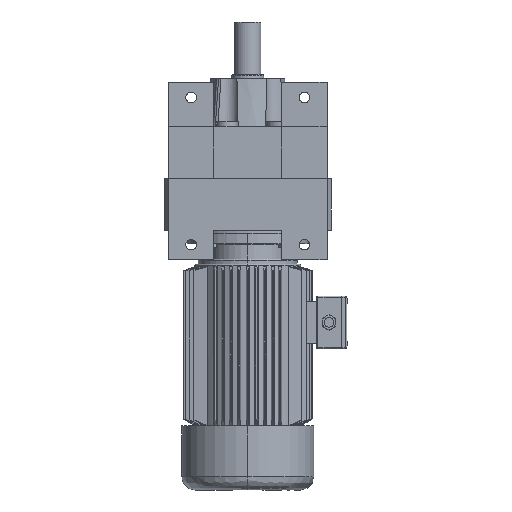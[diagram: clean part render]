
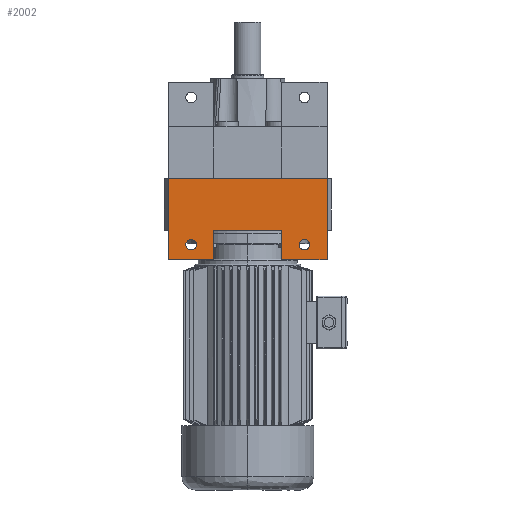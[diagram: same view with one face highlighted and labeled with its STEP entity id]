
A CAD part, front view. The second image highlights one B-rep face of the part: STEP entity #2002.
In plain terms, the highlighted planar face has unit normal (0, -1, 0).
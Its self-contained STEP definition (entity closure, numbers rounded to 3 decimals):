
#5 = EDGE_LOOP ( 'NONE', ( #9484, #21338 ) ) ;
#201 = AXIS2_PLACEMENT_3D ( 'NONE', #32561, #11098, #7064 ) ;
#1338 = VECTOR ( 'NONE', #13522, 1000. ) ;
#1797 = CARTESIAN_POINT ( 'NONE',  ( 88.4, -130., 68.667 ) ) ;
#2002 = ADVANCED_FACE ( 'NONE', ( #10989, #34947, #15466 ), #15970, .F. ) ;
#2065 = DIRECTION ( 'NONE',  ( 0., 0., 1. ) ) ;
#2277 = LINE ( 'NONE', #18982, #36793 ) ;
#2292 = CARTESIAN_POINT ( 'NONE',  ( 45., -130., -39. ) ) ;
#2510 = CARTESIAN_POINT ( 'NONE',  ( 88.4, -130., -39. ) ) ;
#3218 = VECTOR ( 'NONE', #19073, 1000. ) ;
#3390 = EDGE_CURVE ( 'NONE', #23847, #5272, #9970, .T. ) ;
#3499 = DIRECTION ( 'NONE',  ( 0., 0., -1. ) ) ;
#4339 = VERTEX_POINT ( 'NONE', #11947 ) ;
#4402 = CARTESIAN_POINT ( 'NONE',  ( 45., -130., 68.667 ) ) ;
#4434 = CARTESIAN_POINT ( 'NONE',  ( 105., -130., 68.667 ) ) ;
#4603 = VECTOR ( 'NONE', #6306, 1000. ) ;
#5272 = VERTEX_POINT ( 'NONE', #33374 ) ;
#5426 = CARTESIAN_POINT ( 'NONE',  ( -105., -130., -39. ) ) ;
#5792 = DIRECTION ( 'NONE',  ( 0., -1., 0. ) ) ;
#6306 = DIRECTION ( 'NONE',  ( 1., 0., 0. ) ) ;
#7064 = DIRECTION ( 'NONE',  ( 0., 0., 1. ) ) ;
#7510 = VERTEX_POINT ( 'NONE', #5426 ) ;
#7906 = CARTESIAN_POINT ( 'NONE',  ( 105., -130., -39. ) ) ;
#8514 = ORIENTED_EDGE ( 'NONE', *, *, #22014, .F. ) ;
#8896 = ORIENTED_EDGE ( 'NONE', *, *, #42219, .F. ) ;
#9030 = EDGE_CURVE ( 'NONE', #30284, #40990, #14510, .T. ) ;
#9484 = ORIENTED_EDGE ( 'NONE', *, *, #32710, .F. ) ;
#9528 = ORIENTED_EDGE ( 'NONE', *, *, #41993, .F. ) ;
#9892 = CARTESIAN_POINT ( 'NONE',  ( 75., -130., -39. ) ) ;
#9964 = DIRECTION ( 'NONE',  ( 0., -1., 0. ) ) ;
#9970 = CIRCLE ( 'NONE', #34165, 7. ) ;
#10239 = DIRECTION ( 'NONE',  ( -1., 0., 0. ) ) ;
#10989 = FACE_OUTER_BOUND ( 'NONE', #39577, .T. ) ;
#11098 = DIRECTION ( 'NONE',  ( 0., -1., 0. ) ) ;
#11139 = EDGE_CURVE ( 'NONE', #15037, #33782, #21113, .T. ) ;
#11312 = CIRCLE ( 'NONE', #11379, 7. ) ;
#11379 = AXIS2_PLACEMENT_3D ( 'NONE', #39212, #31738, #18058 ) ;
#11620 = VECTOR ( 'NONE', #44514, 1000. ) ;
#11917 = DIRECTION ( 'NONE',  ( 0., 1., 0. ) ) ;
#11947 = CARTESIAN_POINT ( 'NONE',  ( -105., -130., 68.667 ) ) ;
#12087 = ORIENTED_EDGE ( 'NONE', *, *, #43785, .T. ) ;
#12762 = EDGE_CURVE ( 'NONE', #33782, #4339, #29535, .T. ) ;
#13070 = CIRCLE ( 'NONE', #201, 7. ) ;
#13522 = DIRECTION ( 'NONE',  ( -1., 0., 0. ) ) ;
#14510 = LINE ( 'NONE', #24995, #37339 ) ;
#15037 = VERTEX_POINT ( 'NONE', #7906 ) ;
#15466 = FACE_BOUND ( 'NONE', #19793, .T. ) ;
#15821 = LINE ( 'NONE', #9892, #4603 ) ;
#15970 = PLANE ( 'NONE',  #42891 ) ;
#17819 = ORIENTED_EDGE ( 'NONE', *, *, #43098, .F. ) ;
#18058 = DIRECTION ( 'NONE',  ( 0., 0., 1. ) ) ;
#18982 = CARTESIAN_POINT ( 'NONE',  ( -105., -130., 196. ) ) ;
#19073 = DIRECTION ( 'NONE',  ( 0., 0., 1. ) ) ;
#19793 = EDGE_LOOP ( 'NONE', ( #8514, #29519 ) ) ;
#19897 = DIRECTION ( 'NONE',  ( -1., 0., 0. ) ) ;
#21113 = LINE ( 'NONE', #37530, #11620 ) ;
#21338 = ORIENTED_EDGE ( 'NONE', *, *, #3390, .F. ) ;
#22014 = EDGE_CURVE ( 'NONE', #28653, #24133, #42665, .T. ) ;
#22512 = LINE ( 'NONE', #2510, #1338 ) ;
#23253 = EDGE_CURVE ( 'NONE', #4339, #7510, #2277, .T. ) ;
#23847 = VERTEX_POINT ( 'NONE', #36962 ) ;
#24133 = VERTEX_POINT ( 'NONE', #35672 ) ;
#24571 = CARTESIAN_POINT ( 'NONE',  ( -75., -130., -19. ) ) ;
#24995 = CARTESIAN_POINT ( 'NONE',  ( 48.87, -130., 0. ) ) ;
#25745 = ORIENTED_EDGE ( 'NONE', *, *, #9030, .F. ) ;
#26017 = LINE ( 'NONE', #4402, #3218 ) ;
#26619 = LINE ( 'NONE', #27967, #34441 ) ;
#27967 = CARTESIAN_POINT ( 'NONE',  ( -45., -130., 68.667 ) ) ;
#28653 = VERTEX_POINT ( 'NONE', #44804 ) ;
#29519 = ORIENTED_EDGE ( 'NONE', *, *, #29943, .F. ) ;
#29535 = LINE ( 'NONE', #37925, #34013 ) ;
#29943 = EDGE_CURVE ( 'NONE', #24133, #28653, #11312, .T. ) ;
#30184 = CARTESIAN_POINT ( 'NONE',  ( -45., -130., 0. ) ) ;
#30284 = VERTEX_POINT ( 'NONE', #30604 ) ;
#30604 = CARTESIAN_POINT ( 'NONE',  ( 45., -130., 0. ) ) ;
#30824 = CARTESIAN_POINT ( 'NONE',  ( 75., -130., -19. ) ) ;
#31581 = DIRECTION ( 'NONE',  ( 0., 0., 1. ) ) ;
#31738 = DIRECTION ( 'NONE',  ( 0., -1., 0. ) ) ;
#31843 = CARTESIAN_POINT ( 'NONE',  ( -45., -130., -39. ) ) ;
#32505 = VERTEX_POINT ( 'NONE', #2292 ) ;
#32561 = CARTESIAN_POINT ( 'NONE',  ( 75., -130., -19. ) ) ;
#32704 = ORIENTED_EDGE ( 'NONE', *, *, #11139, .T. ) ;
#32710 = EDGE_CURVE ( 'NONE', #5272, #23847, #13070, .T. ) ;
#33327 = ORIENTED_EDGE ( 'NONE', *, *, #23253, .T. ) ;
#33374 = CARTESIAN_POINT ( 'NONE',  ( 75., -130., -12. ) ) ;
#33420 = DIRECTION ( 'NONE',  ( 0., 0., -1. ) ) ;
#33782 = VERTEX_POINT ( 'NONE', #4434 ) ;
#34013 = VECTOR ( 'NONE', #19897, 1000. ) ;
#34165 = AXIS2_PLACEMENT_3D ( 'NONE', #30824, #5792, #2065 ) ;
#34441 = VECTOR ( 'NONE', #3499, 1000. ) ;
#34947 = FACE_BOUND ( 'NONE', #5, .T. ) ;
#35672 = CARTESIAN_POINT ( 'NONE',  ( -75., -130., -26. ) ) ;
#36793 = VECTOR ( 'NONE', #33420, 1000. ) ;
#36962 = CARTESIAN_POINT ( 'NONE',  ( 75., -130., -26. ) ) ;
#37339 = VECTOR ( 'NONE', #10239, 1000. ) ;
#37530 = CARTESIAN_POINT ( 'NONE',  ( 105., -130., 196. ) ) ;
#37897 = DIRECTION ( 'NONE',  ( -1., 0., 0. ) ) ;
#37925 = CARTESIAN_POINT ( 'NONE',  ( 48.87, -130., 68.667 ) ) ;
#39166 = ORIENTED_EDGE ( 'NONE', *, *, #12762, .T. ) ;
#39212 = CARTESIAN_POINT ( 'NONE',  ( -75., -130., -19. ) ) ;
#39577 = EDGE_LOOP ( 'NONE', ( #39166, #33327, #17819, #9528, #25745, #8896, #12087, #32704 ) ) ;
#40990 = VERTEX_POINT ( 'NONE', #30184 ) ;
#41993 = EDGE_CURVE ( 'NONE', #40990, #44644, #26619, .T. ) ;
#42219 = EDGE_CURVE ( 'NONE', #32505, #30284, #26017, .T. ) ;
#42665 = CIRCLE ( 'NONE', #45857, 7. ) ;
#42891 = AXIS2_PLACEMENT_3D ( 'NONE', #1797, #11917, #37897 ) ;
#43098 = EDGE_CURVE ( 'NONE', #44644, #7510, #22512, .T. ) ;
#43785 = EDGE_CURVE ( 'NONE', #32505, #15037, #15821, .T. ) ;
#44514 = DIRECTION ( 'NONE',  ( 0., 0., 1. ) ) ;
#44644 = VERTEX_POINT ( 'NONE', #31843 ) ;
#44804 = CARTESIAN_POINT ( 'NONE',  ( -75., -130., -12. ) ) ;
#45857 = AXIS2_PLACEMENT_3D ( 'NONE', #24571, #9964, #31581 ) ;
